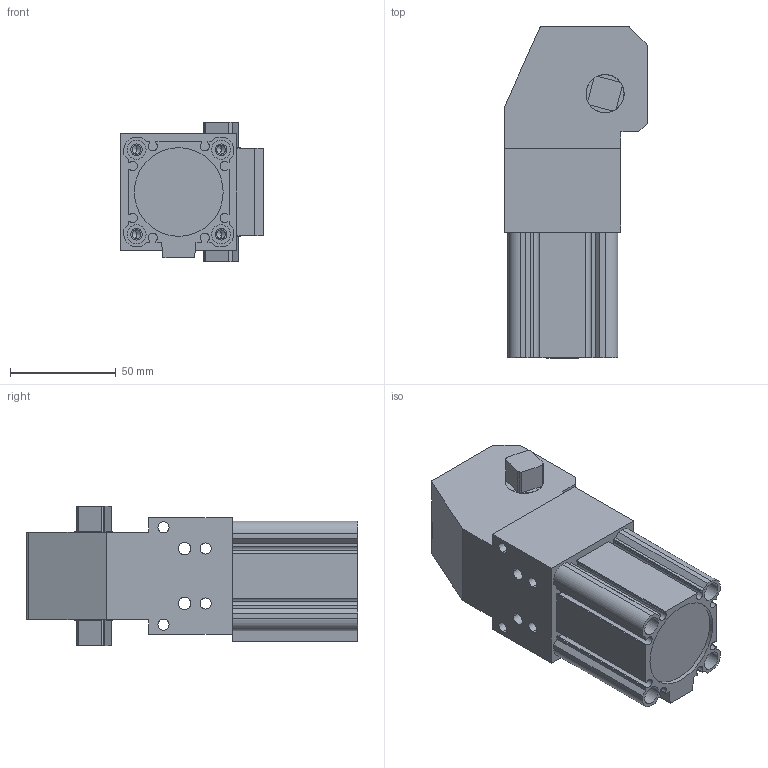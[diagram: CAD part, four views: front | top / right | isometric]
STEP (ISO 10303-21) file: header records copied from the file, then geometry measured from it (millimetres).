
FILE_DESCRIPTION (( 'STEP AP203' ), '1' );
FILE_NAME ('BC-40-S-30.STEP', '2017-02-15T11:13:26', ( '' ), ( '' ), 'SwSTEP 2.0', 'SolidWorks 2012', '' );
FILE_SCHEMA (( 'CONFIG_CONTROL_DESIGN' ));
Length unit declared in the file: millimetre
Products named in the file (4): BC-40-S-30; S-40-20; BC40S-1; BC40S-2
Assembly tree (3 placements, depth 2):
  BC-40-S-30
    BC40S-2
    BC40S-1
    S-40-20
Bounding box: 67.5 x 157 x 66 mm (x, y, z)
Volume: 351085.5 mm3; surface area: 72920.6 mm2
Topology: 3 solids, 3 shells, 205 faces, 532 edges, 344 vertices
Faces by surface type: plane 98, cylinder 95, cone 12
Entity records: 6822 total; most frequent: CARTESIAN_POINT 1215, DIRECTION 1132, ORIENTED_EDGE 1048, EDGE_CURVE 524, AXIS2_PLACEMENT_3D 405, VERTEX_POINT 344, LINE 322, VECTOR 322
